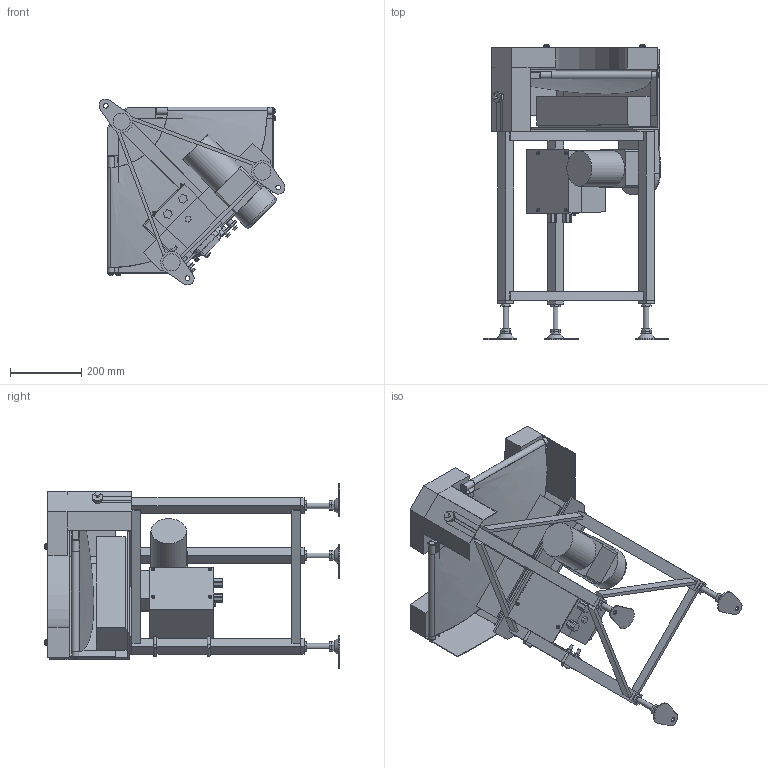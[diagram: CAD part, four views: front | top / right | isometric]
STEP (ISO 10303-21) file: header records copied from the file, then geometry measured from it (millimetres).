
FILE_DESCRIPTION (( 'STEP AP214' ), '1' );
FILE_NAME ('GFBC90-UD200-R.STEP', '2022-09-08T09:07:54', ( '' ), ( '' ), 'SwSTEP 2.0', 'SolidWorks 2017', '' );
FILE_SCHEMA (( 'AUTOMOTIVE_DESIGN' ));
Length unit declared in the file: millimetre
Products named in the file (1): GFBC90-UD200-R
Bounding box: 521.18 x 827.92 x 521.18 mm (x, y, z)
Volume: 19673382.2 mm3; surface area: 2762217.2 mm2
Topology: 54 solids, 55 shells, 963 faces, 2177 edges, 1403 vertices
Faces by surface type: plane 688, cylinder 187, bspline 42, cone 38, torus 6, sphere 2
Full cylindrical faces by diameter (mm): 4 x4, 4.2 x2, 4.5 x1, 5 x4, 5.9 x4, 6 x9, 7 x1, 7.6 x4, 8 x15, 9 x6, 10 x2, 12 x1, 12.2 x2, 12.5 x7, 13 x7, 15 x4, 16 x9, 18 x2, 18.4 x1, 20 x7, 21 x1, 25 x1, 30 x6, 99 x1
Entity records: 44931 total; most frequent: CARTESIAN_POINT 12954, DIRECTION 4123, ORIENTED_EDGE 4046, EDGE_CURVE 2023, LINE 1393, VECTOR 1393, VERTEX_POINT 1373, AXIS2_PLACEMENT_3D 1365
